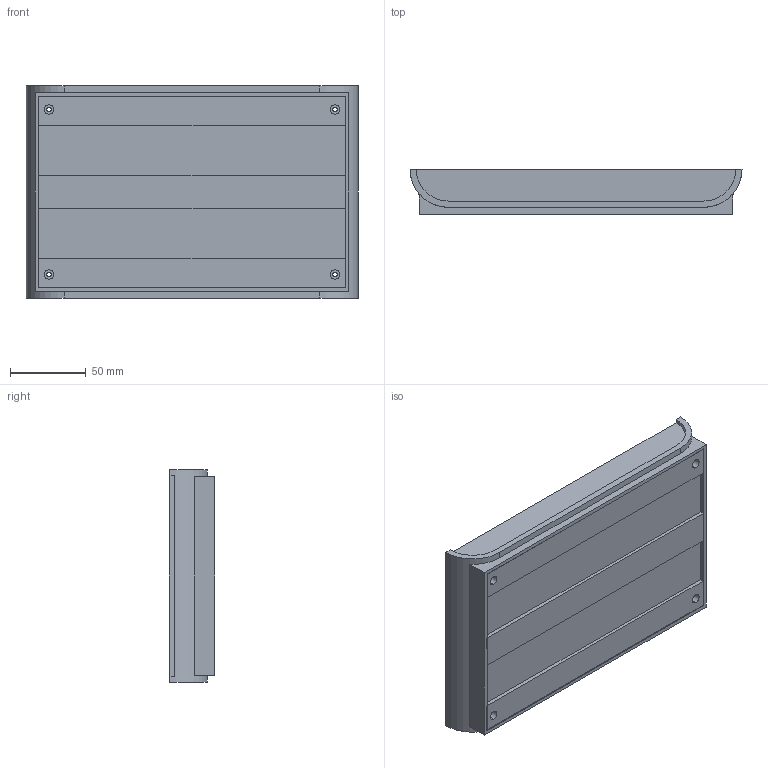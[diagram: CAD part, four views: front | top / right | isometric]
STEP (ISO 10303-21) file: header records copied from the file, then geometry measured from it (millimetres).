
FILE_DESCRIPTION (( 'STEP AP214' ), '1' );
FILE_NAME ('Cos PP70.STEP', '2017-11-14T10:13:48', ( 'aaa' ), ( '' ), 'SwSTEP 2.0', 'SolidWorks 2013', '' );
FILE_SCHEMA (( 'AUTOMOTIVE_DESIGN' ));
Length unit declared in the file: millimetre
Products named in the file (1): Cos PP70
Bounding box: 219 x 30 x 140 mm (x, y, z)
Volume: 136415.1 mm3; surface area: 114053.9 mm2
Topology: 1 solids, 1 shells, 162 faces, 372 edges, 248 vertices
Faces by surface type: plane 82, cylinder 56, cone 24
Entity records: 4690 total; most frequent: DIRECTION 862, CARTESIAN_POINT 783, ORIENTED_EDGE 744, EDGE_CURVE 372, AXIS2_PLACEMENT_3D 327, VERTEX_POINT 248, VECTOR 208, LINE 208
